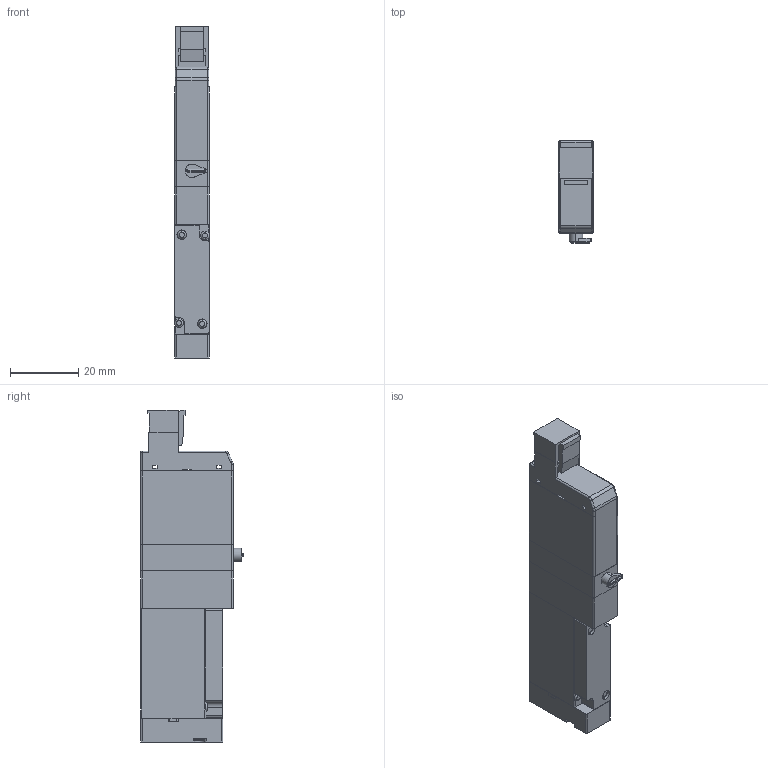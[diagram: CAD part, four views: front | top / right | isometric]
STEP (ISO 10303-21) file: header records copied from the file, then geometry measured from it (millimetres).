
FILE_DESCRIPTION( (''), '2;1');
FILE_NAME ('CVICAD02.13484.F10T0-R-A1-PS_5689.stp','2020-09-01T14:09:43',(''),(''),'spGate 12.6.6','','');
FILE_SCHEMA (('AUTOMOTIVE_DESIGN'));
Length unit declared in the file: millimetre
Products named in the file (7): Assembly; F10T_Body; F10_Adptor; F10_Cap; F_Connector-PS; F10_A1; F_3PortBody-R
Assembly tree (6 placements, depth 2):
  Assembly
    F10T_Body
    F10_Adptor
    F10_Cap
    F_Connector-PS
    F10_A1
    F_3PortBody-R
Bounding box: 10.2 x 30 x 97 mm (x, y, z)
Volume: 22389.2 mm3; surface area: 10410.6 mm2
Topology: 6 solids, 6 shells, 243 faces, 614 edges, 392 vertices
Faces by surface type: plane 131, cylinder 86, bspline 20, sphere 6
Entity records: 12672 total; most frequent: CARTESIAN_POINT 1690, DIRECTION 1251, ORIENTED_EDGE 1216, COLOUR_RGB 857, PRESENTATION_STYLE_ASSIGNMENT 857, STYLED_ITEM 857, EDGE_CURVE 608, DRAUGHTING_PRE_DEFINED_CURVE_FONT 608
